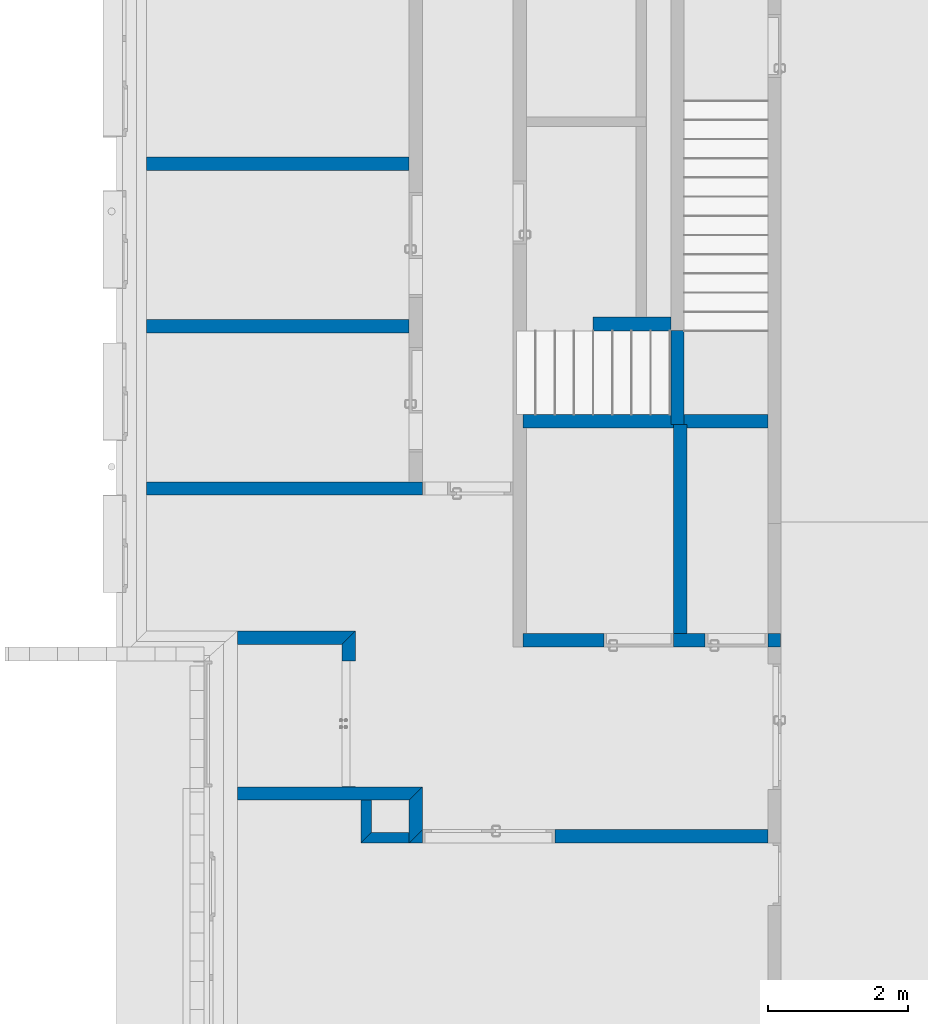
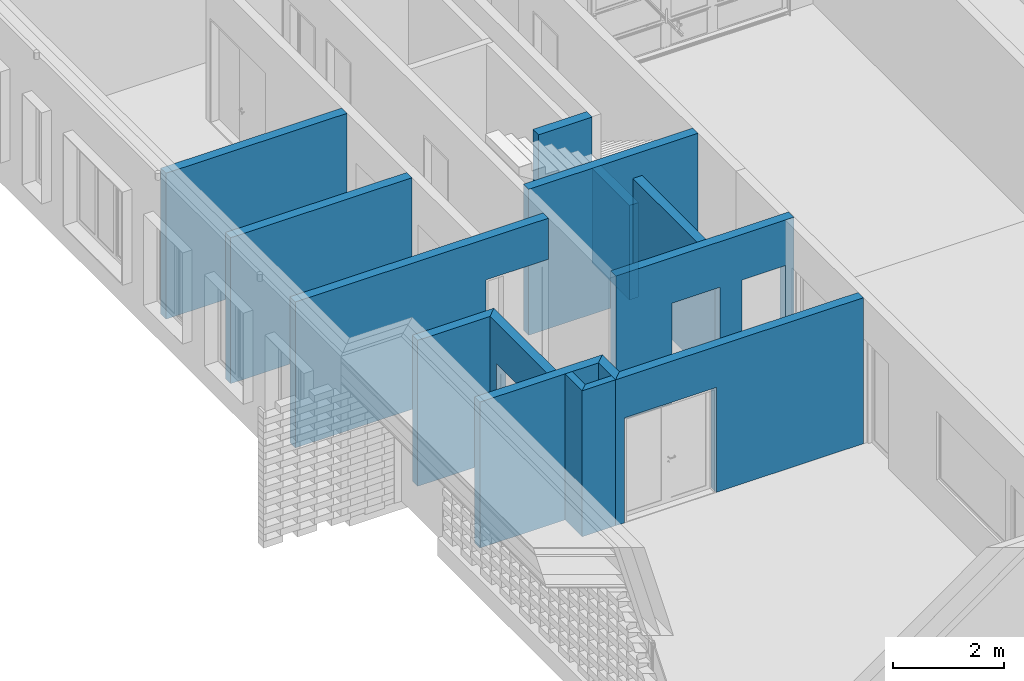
# One storey, part 7 of 62: 15 walls, 5 openings.
"""IFC2X3 building model written with IfcOpenShell, lengths in millimetres."""

from ifc_helpers import new_model, entity, si_unit, converted_unit, derived_unit, money_unit, direction, frame, origin_with_axes, origin_2d_with_axis, place, context, subcontext, project, spatial, polyline, rectangle, outline, extrude, material, layer, layer_set, layer_usage, type_object, element, save


model = new_model("IFC2X3")

# Units and contexts
model_context = context("Model", 3, precision=0.01, world=origin_with_axes(), true_north=direction((0.0, 1.0)))
body_context = subcontext(model_context, "Body", "Model", "MODEL_VIEW")
ifc_project = project(units=[si_unit("LENGTHUNIT", "METRE", prefix="MILLI"), si_unit("AREAUNIT", "SQUARE_METRE"), si_unit("VOLUMEUNIT", "CUBIC_METRE"), converted_unit("PLANEANGLEUNIT", "DEGREE", entity("IfcPlaneAngleMeasure", 0.0174532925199), si_unit("PLANEANGLEUNIT", "RADIAN"), dimensions=[0, 0, 0, 0, 0, 0, 0]), si_unit("SOLIDANGLEUNIT", "STERADIAN"), money_unit("EUR"), converted_unit("TIMEUNIT", "Year", entity("IfcTimeMeasure", 31556926.0), si_unit("TIMEUNIT", "SECOND"), dimensions=[0, 0, 1, 0, 0, 0, 0]), si_unit("MASSUNIT", "GRAM", prefix="KILO"), si_unit("THERMODYNAMICTEMPERATUREUNIT", "DEGREE_CELSIUS"), si_unit("LUMINOUSINTENSITYUNIT", "LUMEN"), si_unit("ENERGYUNIT", "JOULE", prefix="MEGA"), derived_unit("THERMALCONDUCTANCEUNIT", [(si_unit("POWERUNIT", "WATT"), 1), (si_unit("LENGTHUNIT", "METRE"), -1), (si_unit("THERMODYNAMICTEMPERATUREUNIT", "KELVIN"), -1)]), derived_unit("SPECIFICHEATCAPACITYUNIT", [(si_unit("ENERGYUNIT", "JOULE"), 1), (si_unit("MASSUNIT", "GRAM", prefix="KILO"), -1), (si_unit("THERMODYNAMICTEMPERATUREUNIT", "KELVIN"), -1)]), derived_unit("MASSDENSITYUNIT", [(si_unit("MASSUNIT", "GRAM", prefix="KILO"), 1), (si_unit("VOLUMEUNIT", "CUBIC_METRE"), -1)])], contexts=[model_context])

# Site, building, storey
site_placement = place(None, origin_with_axes())
site = spatial("IfcSite", under=ifc_project, at=site_placement, Name="KIRDE 14, ELVA", CompositionType="ELEMENT")
building_placement = place(site_placement, origin_with_axes())
building = spatial("IfcBuilding", under=site, at=building_placement, Name="PPA ja Päästeameti ühishoone", CompositionType="ELEMENT")
storey_placement = place(building_placement, origin_with_axes())
storey = spatial("IfcBuildingStorey", under=building, at=storey_placement, Name="Esimene korrus", CompositionType="ELEMENT", Elevation=0.0)

# Walls
ifc_material_1 = material(Name="COLUMBIA KIVI (BETONEERITUD)")
ifc_layer_1 = layer(ifc_material_1, 190.0, ventilated="UNKNOWN")
ifc_layer_set_1 = layer_set([ifc_layer_1], Name="SS-02")
ifc_layer_usage_1 = layer_usage(ifc_layer_set_1, "AXIS2", "NEGATIVE", 0.0)
wall_type_1 = type_object("IfcWallType", Name="SS-02 190", PredefinedType="USERDEFINED")
wall_1_placement = place(storey_placement, frame((7700.00007153, 15708.9998578, 0.0), z_axis=(0.0, 0.0, 1.0), x_axis=(0.0, -1.0, 0.0)))
element("IfcWallStandardCase", 1, at=wall_1_placement, inside=storey, type_object=wall_type_1, material=ifc_layer_usage_1, Name="SS-07", ObjectType="PARTITIONING", context=body_context, shape_type="SweptSolid", body=[
    extrude(outline(polyline([(0.0, -190.0), (1349.0010404, -190.0), (1349.0010404, 0.0), (0.0, 0.0), (0.0, -190.0)])), origin_with_axes(), (0.0, 0.0, 1.0), 2073.57142857),
])
ifc_layer_usage_2 = layer_usage(ifc_layer_set_1, "AXIS2", "NEGATIVE", 190.0)
wall_2_placement = place(storey_placement, frame((3760.00021491, 18190.9367686, 0.0), z_axis=(0.0, 0.0, 1.0), x_axis=(-1.0, -2.47692160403e-10, 0.0)))
element("IfcWallStandardCase", 2, at=wall_2_placement, inside=storey, type_object=wall_type_1, material=ifc_layer_usage_2, Name="SS-02", ObjectType="PARTITIONING", context=body_context, shape_type="SweptSolid", body=[
    extrude(outline(polyline([(3.72529118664e-06, 0.0), (3760.00021149, 0.0), (3760.00021147, 190.0), (3.77235265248e-06, 190.0), (3.72529118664e-06, 0.0)])), origin_with_axes(), (0.0, 0.0, 1.0), 3200.0),
])
ifc_layer_usage_3 = layer_usage(ifc_layer_set_1, "AXIS2", "NEGATIVE", 190.0)
wall_3_placement = place(storey_placement, frame((3760.00023447, 15862.3282501, 0.0), z_axis=(0.0, 0.0, 1.0), x_axis=(-1.0, -2.47692159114e-10, 0.0)))
element("IfcWallStandardCase", 3, at=wall_3_placement, inside=storey, type_object=wall_type_1, material=ifc_layer_usage_3, Name="SS-02", ObjectType="PARTITIONING", context=body_context, shape_type="SweptSolid", body=[
    extrude(outline(polyline([(2.32830656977e-05, 0.0), (3760.00023015, 0.0), (3760.00023012, 190.0), (2.33301276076e-05, 190.0), (2.32830656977e-05, 0.0)])), origin_with_axes(), (0.0, 0.0, 1.0), 3200.0),
])
ifc_layer_usage_4 = layer_usage(ifc_layer_set_1, "AXIS2", "NEGATIVE", 0.0)
wall_4_placement = place(storey_placement, frame((1300.00014417, 11400.3967016, 0.0), z_axis=(0.0, 0.0, 1.0), x_axis=(1.0, 0.0, 0.0)))
element("IfcWallStandardCase", 4, at=wall_4_placement, inside=storey, type_object=wall_type_1, material=ifc_layer_usage_4, Name="SS-07", ObjectType="PARTITIONING", context=body_context, shape_type="SweptSolid", body=[
    extrude(outline(polyline([(-9.31322352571e-07, -190.0), (1500.00003633, -190.0), (1690.00003465, 0.0), (-9.31322352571e-07, 0.0), (-9.31322352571e-07, -190.0)])), origin_with_axes(), (0.0, 0.0, 1.0), 3200.0),
])

# Wall, openings
ifc_layer_usage_5 = layer_usage(ifc_layer_set_1, "AXIS2", "NEGATIVE", 190.0)
wall_5_placement = place(storey_placement, frame((9080.00014234, 11363.3966051, 0.0), z_axis=(0.0, 0.0, 1.0), x_axis=(-1.0, -2.52390939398e-10, 0.0)))
wall_5 = element("IfcWallStandardCase", 5, at=wall_5_placement, inside=storey, type_object=wall_type_1, material=ifc_layer_usage_5, Name="SS-02", ObjectType="PARTITIONING", context=body_context, shape_type="SweptSolid", body=[
    extrude(outline(polyline([(0.0, 0.0), (3690.00003263, 0.0), (3690.00003263, 190.0), (0.0, 190.0), (0.0, 0.0)])), origin_with_axes(), (0.0, 0.0, 1.0), 3200.0),
])
opening_1_placement = place(wall_5_placement, frame((2030.00005003, 0.0, 0.0), z_axis=(0.0, 0.0, 1.0), x_axis=(1.0, 0.0, 0.0)))
element("IfcOpeningElement", 6, at=opening_1_placement, cuts=wall_5, Name="SU-34", context=body_context, shape_type="SweptSolid", body=[
    extrude(rectangle(XDim=1000.0, YDim=2200.0, at=origin_2d_with_axis()), frame((4.79545292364e-08, 190.0, 1100.0), z_axis=(2.52390939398e-10, 1.0, 0.0), x_axis=(-1.0, 2.52391061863e-10, 0.0)), (0.0, 0.0, -1.0), 570.0),
])
opening_2_placement = place(wall_5_placement, frame((630.000015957, 0.0, 0.0), z_axis=(0.0, 0.0, 1.0), x_axis=(1.0, 0.0, 0.0)))
element("IfcOpeningElement", 7, at=opening_2_placement, cuts=wall_5, Name="SU-37", context=body_context, shape_type="SweptSolid", body=[
    extrude(rectangle(XDim=900.0, YDim=2200.0, at=origin_2d_with_axis()), frame((-4.79545292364e-08, -190.0, 1100.0), z_axis=(-2.52390939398e-10, -1.0, 0.0), x_axis=(-1.0, 2.52391061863e-10, 0.0)), (0.0, 0.0, -1.0), 570.0),
])

# Walls
ifc_layer_usage_6 = layer_usage(ifc_layer_set_1, "AXIS2", "NEGATIVE", 190.0)
wall_6_placement = place(storey_placement, frame((1300.0001451, 8978.47485152, 0.0), z_axis=(0.0, 0.0, 1.0), x_axis=(1.0, 3.78586402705e-10, 0.0)))
element("IfcWallStandardCase", 8, at=wall_6_placement, inside=storey, type_object=wall_type_1, material=ifc_layer_usage_6, Name="SS-02", ObjectType="PARTITIONING", context=body_context, shape_type="SweptSolid", body=[
    extrude(outline(polyline([(-1.86264514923e-06, 0.0), (2460.00006329, 0.0), (2650.00006322, 190.0), (-1.79071379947e-06, 190.0), (-1.86264514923e-06, 0.0)])), origin_with_axes(), (0.0, 0.0, 1.0), 3200.0),
])
ifc_layer_usage_7 = layer_usage(ifc_layer_set_1, "AXIS2", "NEGATIVE", 190.0)
wall_7_placement = place(storey_placement, frame((5390.00010924, 14309.9986066, 0.0), z_axis=(0.0, 0.0, 1.0), x_axis=(1.0, 0.0, 0.0)))
element("IfcWallStandardCase", 9, at=wall_7_placement, inside=storey, type_object=wall_type_1, material=ifc_layer_usage_7, Name="SS-03", ObjectType="PARTITIONING", context=body_context, shape_type="SweptSolid", body=[
    extrude(outline(polyline([(0.0, 0.0), (3510.0000316, 0.0), (3510.00003152, 190.0), (0.0, 190.0), (0.0, 0.0)])), origin_with_axes(), (0.0, 0.0, 1.0), 3200.0),
])
ifc_layer_usage_8 = layer_usage(ifc_layer_set_1, "AXIS2", "NEGATIVE", 190.0)
wall_8_placement = place(storey_placement, frame((3760.00020839, 8978.47485219, 0.0), z_axis=(0.0, 0.0, 1.0), x_axis=(7.60210643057e-10, -1.0, 0.0)))
element("IfcWallStandardCase", 10, at=wall_8_placement, inside=storey, type_object=wall_type_1, material=ifc_layer_usage_8, Name="SS-02", ObjectType="PARTITIONING", context=body_context, shape_type="SweptSolid", body=[
    extrude(outline(polyline([(-2.61934474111e-07, 0.0), (612.542446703, 0.0), (422.542446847, 190.0), (-190.000000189, 190.0), (-2.61934474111e-07, 0.0)])), origin_with_axes(), (0.0, 0.0, 1.0), 3200.0),
])

# Wall, opening
ifc_layer_usage_9 = layer_usage(ifc_layer_set_1, "AXIS2", "NEGATIVE", 190.0)
wall_9_placement = place(storey_placement, frame((5440.00010282, 13539.8831751, 0.0), z_axis=(0.0, 0.0, 1.0), x_axis=(-1.0, 0.0, 0.0)))
wall_9 = element("IfcWallStandardCase", 11, at=wall_9_placement, inside=storey, type_object=wall_type_1, material=ifc_layer_usage_9, Name="SS-02", ObjectType="PARTITIONING", context=body_context, shape_type="SweptSolid", body=[
    extrude(outline(polyline([(190.0, 0.0), (5440.0000976, 0.0), (5440.00009752, 190.0), (190.0, 190.0), (190.0, 0.0)])), origin_with_axes(), (0.0, 0.0, 1.0), 3200.0),
])
opening_3_placement = place(wall_9_placement, frame((839.999967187, 0.0, 0.0), z_axis=(0.0, 0.0, 1.0), x_axis=(1.0, 0.0, 0.0)))
element("IfcOpeningElement", 12, at=opening_3_placement, cuts=wall_9, Name="SU-04", context=body_context, shape_type="SweptSolid", body=[
    extrude(rectangle(XDim=1299.99994723, YDim=2300.0, at=origin_2d_with_axis()), frame((0.0, -190.0, 1150.0), z_axis=(0.0, -1.0, 0.0), x_axis=(-1.0, 0.0, 0.0)), (0.0, 0.0, -1.0), 570.0),
])

ifc_layer_usage_10 = layer_usage(ifc_layer_set_1, "AXIS2", "NEGATIVE", 190.0)
wall_10_placement = place(storey_placement, frame((3760.00021677, 8365.93240549, 0.0), z_axis=(0.0, 0.0, 1.0), x_axis=(1.0, 0.0, 0.0)))
wall_10 = element("IfcWallStandardCase", 13, at=wall_10_placement, inside=storey, type_object=wall_type_1, material=ifc_layer_usage_10, Name="SS-02", ObjectType="PARTITIONING", context=body_context, shape_type="SweptSolid", body=[
    extrude(outline(polyline([(-7.91624188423e-06, 0.0), (5139.99992371, 0.0), (5139.99992371, 190.0), (189.999991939, 190.0), (-7.91624188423e-06, 0.0)])), origin_with_axes(), (0.0, 0.0, 1.0), 3200.0),
])
opening_4_placement = place(wall_10_placement, frame((1139.99999173, 0.0, 0.0), z_axis=(0.0, 0.0, 1.0), x_axis=(1.0, 0.0, 0.0)))
element("IfcOpeningElement", 14, at=opening_4_placement, cuts=wall_10, Name="SU-03", context=body_context, shape_type="SweptSolid", body=[
    extrude(rectangle(XDim=1900.0, YDim=2300.0, at=origin_2d_with_axis()), frame((0.0, 190.0, 1150.0), z_axis=(0.0, 1.0, 0.0), x_axis=(-1.0, 0.0, 0.0)), (0.0, 0.0, -1.0), 570.0),
])

# Wall
ifc_layer_usage_11 = layer_usage(ifc_layer_set_1, "AXIS2", "NEGATIVE", 0.0)
wall_11_placement = place(storey_placement, frame((7740.00009232, 14359.9988174, 0.0), z_axis=(0.0, 0.0, 1.0), x_axis=(0.0, -1.0, 0.0)))
element("IfcWallStandardCase", 15, at=wall_11_placement, inside=storey, type_object=wall_type_1, material=ifc_layer_usage_11, Name="SS-03", ObjectType="PARTITIONING", context=body_context, shape_type="SweptSolid", body=[
    extrude(outline(polyline([(0.0, -190.0), (2996.60221275, -190.0), (2996.6022127, 0.0), (0.0, 0.0), (0.0, -190.0)])), origin_with_axes(), (0.0, 0.0, 1.0), 2682.63548223),
])

# Wall, opening
ifc_layer_usage_12 = layer_usage(ifc_layer_set_1, "AXIS2", "NEGATIVE", 190.0)
wall_12_placement = place(storey_placement, frame((2990.00020034, 8978.47485216, 0.0), z_axis=(0.0, 0.0, 1.0), x_axis=(-8.88777336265e-09, 1.0, 0.0)))
wall_12 = element("IfcWallStandardCase", 16, at=wall_12_placement, inside=storey, type_object=wall_type_1, material=ifc_layer_usage_12, Name="SS-02", ObjectType="PARTITIONING", context=body_context, shape_type="SweptSolid", body=[
    extrude(outline(polyline([(190.0, 0.0), (2421.9218494, 0.0), (2231.92185109, 190.0), (190.000001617, 190.0), (190.0, 0.0)])), origin_with_axes(), (0.0, 0.0, 1.0), 3200.0),
])
opening_5_placement = place(wall_12_placement, frame((1091.92175982, 0.0, 0.0), z_axis=(0.0, 0.0, 1.0), x_axis=(1.0, 0.0, 0.0)))
element("IfcOpeningElement", 17, at=opening_5_placement, cuts=wall_12, Name="SU-01", context=body_context, shape_type="SweptSolid", body=[
    extrude(rectangle(XDim=1800.0, YDim=2300.0, at=origin_2d_with_axis()), frame((-1.68867764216e-06, -190.0, 1150.0), z_axis=(-8.88777336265e-09, -1.0, 0.0), x_axis=(-1.0, 8.88777342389e-09, 0.0)), (0.0, 0.0, -1.0), 570.0),
])

# Walls
ifc_material_2 = material(Name="Kergplokk")
ifc_layer_2 = layer(ifc_material_2, 200.0, ventilated="UNKNOWN")
ifc_layer_set_2 = layer_set([ifc_layer_2], Name="SS-04 (FIBO 200)")
ifc_layer_usage_13 = layer_usage(ifc_layer_set_2, "AXIS2", "POSITIVE", -200.0)
wall_type_2 = type_object("IfcWallType", Name="SS-04 (FIBO 200) 200", PredefinedType="USERDEFINED")
wall_13_placement = place(storey_placement, frame((7700.00010636, 15698.9988725, 0.0), z_axis=(0.0, 0.0, 1.0), x_axis=(-1.0, 0.0, 0.0)))
element("IfcWallStandardCase", 18, at=wall_13_placement, inside=storey, type_object=wall_type_2, material=ifc_layer_usage_13, Name="SS-04", ObjectType="PARTITIONING", context=body_context, shape_type="SweptSolid", body=[
    extrude(outline(polyline([(190.000034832, -200.0), (1304.99997226, -200.0), (1304.99997226, 0.0), (190.000034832, 0.0), (190.000034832, -200.0)])), origin_with_axes(), (0.0, 0.0, 1.0), 3200.0),
])
ifc_layer_3 = layer(ifc_material_1, 150.0, ventilated="UNKNOWN")
ifc_layer_set_3 = layer_set([ifc_layer_3], Name="SS-05")
ifc_layer_usage_14 = layer_usage(ifc_layer_set_3, "AXIS2", "NEGATIVE", 150.0)
wall_type_3 = type_object("IfcWallType", Name="SS-05 150", PredefinedType="USERDEFINED")
wall_14_placement = place(storey_placement, frame((3069.58974525, 8365.93240456, 0.0), z_axis=(0.0, 0.0, 1.0), x_axis=(1.0, 1.34894041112e-09, 0.0)))
element("IfcWallStandardCase", 19, at=wall_14_placement, inside=storey, type_object=wall_type_3, material=ifc_layer_usage_14, Name="SS-02", ObjectType="PARTITIONING", context=body_context, shape_type="SweptSolid", body=[
    extrude(outline(polyline([(7.91624232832e-06, 0.0), (690.410463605, 0.0), (690.410463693, 150.0), (150.000008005, 150.0), (7.91624232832e-06, 0.0)])), origin_with_axes(), (0.0, 0.0, 1.0), 3200.0),
])
ifc_layer_usage_15 = layer_usage(ifc_layer_set_3, "AXIS2", "NEGATIVE", 150.0)
wall_15_placement = place(storey_placement, frame((3069.5897527, 8978.47485219, 0.0), z_axis=(0.0, 0.0, 1.0), x_axis=(7.60210641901e-10, -1.0, 0.0)))
element("IfcWallStandardCase", 20, at=wall_15_placement, inside=storey, type_object=wall_type_3, material=ifc_layer_usage_15, Name="SS-02", ObjectType="PARTITIONING", context=body_context, shape_type="SweptSolid", body=[
    extrude(outline(polyline([(-5.54223333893e-10, 0.0), (612.542447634, 0.0), (462.542447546, 150.0), (5.66888758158e-08, 150.0), (-5.54223333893e-10, 0.0)])), origin_with_axes(), (0.0, 0.0, 1.0), 3200.0),
])

save(model, "model.ifc")
